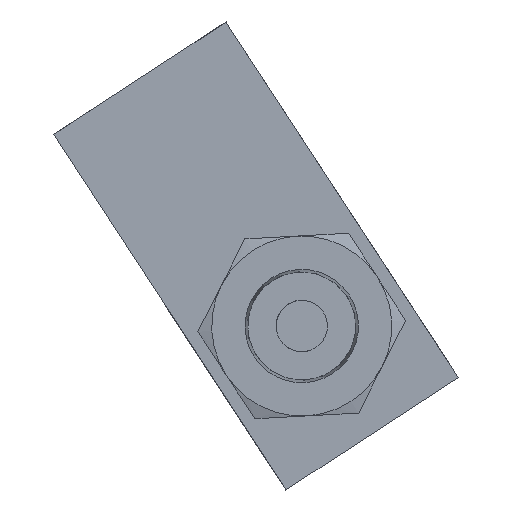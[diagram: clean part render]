
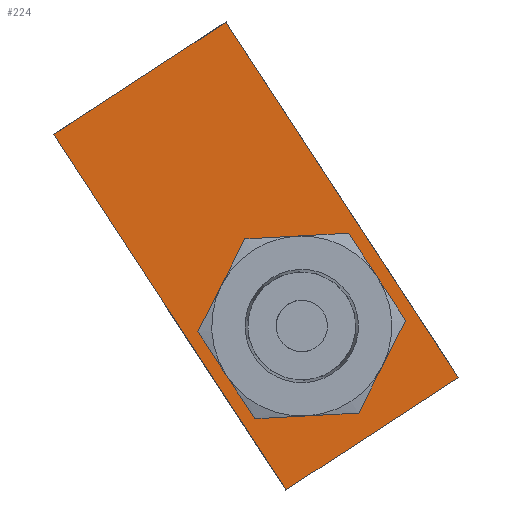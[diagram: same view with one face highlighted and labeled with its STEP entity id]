
A CAD part, left-side view. The second image highlights one B-rep face of the part: STEP entity #224.
In plain terms, the highlighted planar face has unit normal (-1, 0, 0).
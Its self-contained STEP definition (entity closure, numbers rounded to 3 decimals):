
#224=ADVANCED_FACE('',(#366,#367),#368,.F.);
#366=FACE_OUTER_BOUND('',#649,.T.);
#367=FACE_BOUND('',#650,.T.);
#368=PLANE('',#651);
#649=EDGE_LOOP('',(#993,#994,#995,#996));
#650=EDGE_LOOP('',(#997,#998,#999,#1000,#1001,#1002));
#651=AXIS2_PLACEMENT_3D('',#1003,#1004,#1005);
#993=ORIENTED_EDGE('',*,*,#1830,.F.);
#994=ORIENTED_EDGE('',*,*,#1824,.F.);
#995=ORIENTED_EDGE('',*,*,#1832,.T.);
#996=ORIENTED_EDGE('',*,*,#1833,.T.);
#997=ORIENTED_EDGE('',*,*,#1834,.F.);
#998=ORIENTED_EDGE('',*,*,#1835,.F.);
#999=ORIENTED_EDGE('',*,*,#1809,.F.);
#1000=ORIENTED_EDGE('',*,*,#1836,.F.);
#1001=ORIENTED_EDGE('',*,*,#1803,.F.);
#1002=ORIENTED_EDGE('',*,*,#1795,.F.);
#1003=CARTESIAN_POINT('',(0.,33.0,8.0));
#1004=DIRECTION('',(1.0,0.0,0.0));
#1005=DIRECTION('',(0.0,1.0,0.0));
#1795=EDGE_CURVE('',#2061,#2059,#2063,.T.);
#1803=EDGE_CURVE('',#2059,#2071,#2077,.T.);
#1809=EDGE_CURVE('',#2082,#2087,#2088,.T.);
#1824=EDGE_CURVE('',#2111,#2113,#2114,.T.);
#1830=EDGE_CURVE('',#2113,#2122,#2124,.T.);
#1832=EDGE_CURVE('',#2111,#2127,#2128,.T.);
#1833=EDGE_CURVE('',#2127,#2122,#2129,.T.);
#1834=EDGE_CURVE('',#2130,#2061,#2131,.T.);
#1835=EDGE_CURVE('',#2087,#2130,#2132,.T.);
#1836=EDGE_CURVE('',#2071,#2082,#2133,.T.);
#2059=VERTEX_POINT('',#2499);
#2061=VERTEX_POINT('',#2503);
#2063=CIRCLE('',#2507,7.0);
#2071=VERTEX_POINT('',#2522);
#2077=CIRCLE('',#2537,7.0);
#2082=VERTEX_POINT('',#2546);
#2087=VERTEX_POINT('',#2556);
#2088=CIRCLE('',#2557,7.0);
#2111=VERTEX_POINT('',#2597);
#2113=VERTEX_POINT('',#2600);
#2114=LINE('',#2601,#2602);
#2122=VERTEX_POINT('',#2611);
#2124=LINE('',#2614,#2615);
#2127=VERTEX_POINT('',#2618);
#2128=LINE('',#2619,#2620);
#2129=LINE('',#2621,#2622);
#2130=VERTEX_POINT('',#2623);
#2131=CIRCLE('',#2624,7.0);
#2132=CIRCLE('',#2625,7.0);
#2133=CIRCLE('',#2626,7.0);
#2499=CARTESIAN_POINT('',(0.,29.062,-3.5));
#2503=CARTESIAN_POINT('',(0.,29.062,3.5));
#2507=AXIS2_PLACEMENT_3D('',#3127,#3128,#3129);
#2522=CARTESIAN_POINT('',(0.,23.0,-7.0));
#2537=AXIS2_PLACEMENT_3D('',#3132,#3133,#3134);
#2546=CARTESIAN_POINT('',(0.,16.938,-3.5));
#2556=CARTESIAN_POINT('',(0.,16.938,3.5));
#2557=AXIS2_PLACEMENT_3D('',#3136,#3137,#3138);
#2597=CARTESIAN_POINT('',(0.,33.0,8.0));
#2600=CARTESIAN_POINT('',(0.,0.0,8.0));
#2601=CARTESIAN_POINT('',(0.,33.0,8.0));
#2602=VECTOR('',#3154,1.0);
#2611=CARTESIAN_POINT('',(0.,0.0,-8.0));
#2614=CARTESIAN_POINT('',(0.,0.0,8.0));
#2615=VECTOR('',#3166,1.0);
#2618=CARTESIAN_POINT('',(0.,33.0,-8.0));
#2619=CARTESIAN_POINT('',(0.,33.0,8.0));
#2620=VECTOR('',#3170,1.0);
#2621=CARTESIAN_POINT('',(0.,33.0,-8.0));
#2622=VECTOR('',#3171,1.0);
#2623=CARTESIAN_POINT('',(0.,23.0,7.0));
#2624=AXIS2_PLACEMENT_3D('',#3172,#3173,#3174);
#2625=AXIS2_PLACEMENT_3D('',#3175,#3176,#3177);
#2626=AXIS2_PLACEMENT_3D('',#3178,#3179,#3180);
#3127=CARTESIAN_POINT('',(0.,23.0,0.0));
#3128=DIRECTION('',(-1.0,0.0,0.0));
#3129=DIRECTION('',(0.0,0.0,-1.0));
#3132=CARTESIAN_POINT('',(0.,23.0,0.0));
#3133=DIRECTION('',(-1.0,0.0,0.0));
#3134=DIRECTION('',(0.0,0.0,-1.0));
#3136=CARTESIAN_POINT('',(0.,23.0,0.0));
#3137=DIRECTION('',(-1.0,0.0,0.0));
#3138=DIRECTION('',(0.0,0.0,-1.0));
#3154=DIRECTION('',(0.0,-1.0,0.0));
#3166=DIRECTION('',(0.0,0.0,-1.0));
#3170=DIRECTION('',(0.0,0.0,-1.0));
#3171=DIRECTION('',(0.0,-1.0,0.0));
#3172=CARTESIAN_POINT('',(0.,23.0,0.0));
#3173=DIRECTION('',(-1.0,0.0,0.0));
#3174=DIRECTION('',(0.0,0.0,-1.0));
#3175=CARTESIAN_POINT('',(0.,23.0,0.0));
#3176=DIRECTION('',(-1.0,0.0,0.0));
#3177=DIRECTION('',(0.0,0.0,-1.0));
#3178=CARTESIAN_POINT('',(0.,23.0,0.0));
#3179=DIRECTION('',(-1.0,0.0,0.0));
#3180=DIRECTION('',(0.0,0.0,-1.0));
